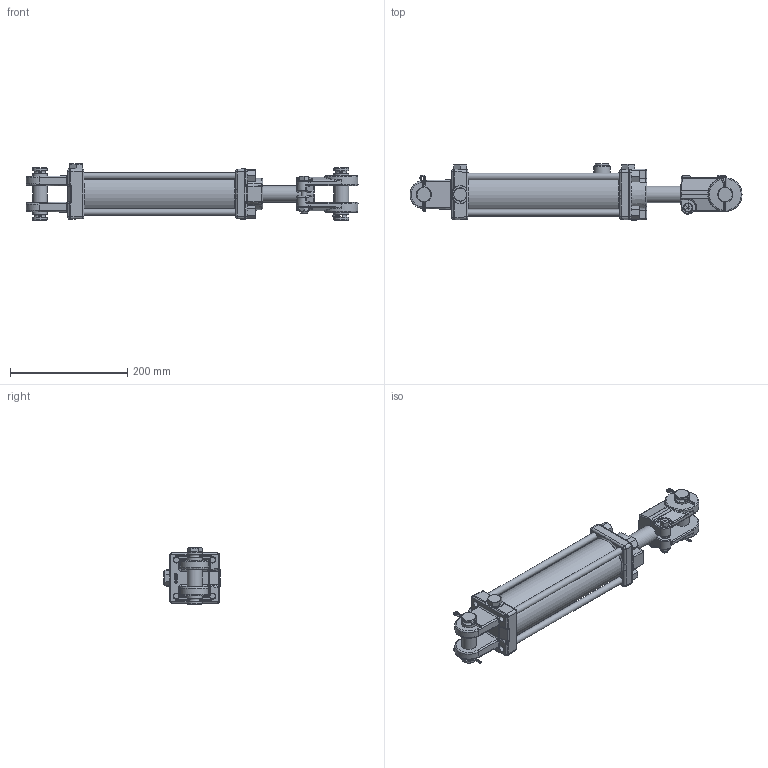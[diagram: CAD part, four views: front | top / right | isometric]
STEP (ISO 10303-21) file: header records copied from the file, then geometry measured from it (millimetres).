
FILE_DESCRIPTION((''),'2;1');
FILE_NAME('C:\Documents and Settings\NewtonB\My Documents\_Vest\090930_PMS-AM-2586\PMS-AM-2586.stp','2009-09-30T08:31:58',('newtonb'),(''),'Autodesk Inventor 2008','Autodesk Inventor 2008','');
FILE_SCHEMA(('AUTOMOTIVE_DESIGN { 1 0 10303 214 1 1 1 1 }'));
Length unit declared in the file: inch
Products named in the file (29): PMS-AM-2586V; 061300449V; 051300453V; 200300181V; 010500394V; 100000423V; 100000422V; 170002104V; 220000203V; 071300349V; 220000208V; 190400001V; 220001504V; 240011111V; 240064250V; 240000024V; 240061228V; 240000228V; 081300269V; 081300268V; 210500088V; 250014112V; 240020183V; 170201121V; 800005001V_12.125; 220000105V; 200300040V; 200300104V; 1413005SFV
Assembly tree (39 placements, depth 3):
  PMS-AM-2586V
    061300449V
      051300453V
      200300181V
    010500394V
    100000423V
      100000422V
      170002104V
      220000203V
    071300349V
    220000208V
    190400001V  x2
    220001504V  x4
    240011111V
    240064250V
    240000024V
    240061228V  x2
    240000228V  x2
    081300269V
      081300268V
      210500088V
    250014112V
    240020183V
    170201121V  x4
      800005001V_12.125
      220000105V
    200300040V  x3
    200300104V
    1413005SFV
Bounding box: 566.77 x 96.22 x 95.75 mm (x, y, z)
Volume: 1491029.3 mm3; surface area: 403555 mm2
Topology: 38 solids, 38 shells, 1130 faces, 2641 edges, 1608 vertices
Faces by surface type: plane 359, bspline 318, cylinder 241, cone 161, torus 32, sphere 19
Full cylindrical faces by diameter (mm): 1.575 x1, 2.769 x1, 5.159 x4, 9.493 x1, 10.319 x2, 11.43 x4, 16.764 x3, 18.999 x1, 19.05 x4, 19.126 x1, 22.352 x1, 25.4 x6, 25.781 x4, 28.55 x2, 28.575 x2, 28.829 x1, 29.527 x1, 30.201 x1, 31.013 x1, 31.75 x1, 32.532 x1, 32.544 x1, 33.325 x1, 34.773 x1, 35.789 x1, 37.148 x1, 37.313 x1, 37.998 x1, 41.275 x1, 41.377 x1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
Entity records: 36636 total; most frequent: CARTESIAN_POINT 16638, ORIENTED_EDGE 3994, DIRECTION 3617, EDGE_CURVE 1997, AXIS2_PLACEMENT_3D 1463, VERTEX_POINT 1300, EDGE_LOOP 1181, FACE_OUTER_BOUND 928
